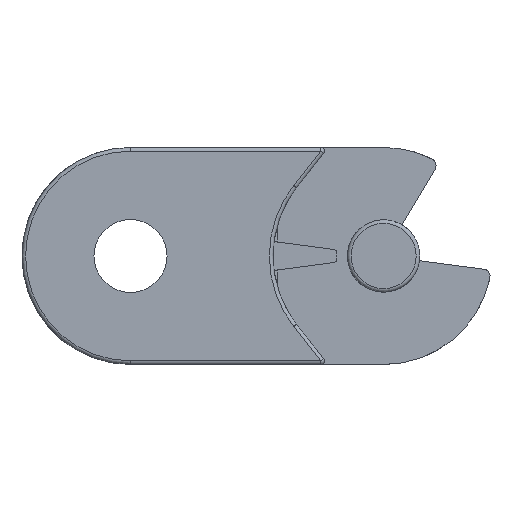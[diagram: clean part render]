
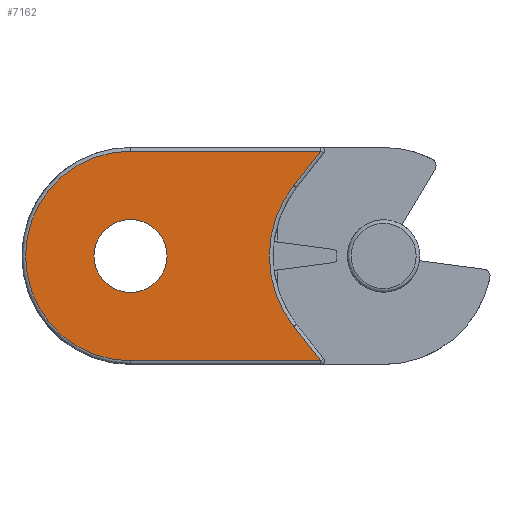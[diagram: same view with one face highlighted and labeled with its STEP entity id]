
A CAD part, left-side view. The second image highlights one B-rep face of the part: STEP entity #7162.
In plain terms, the highlighted planar face has unit normal (-1, 0, 0) as drawn and (0, 0, -1) by its records, which use the part's own axes.
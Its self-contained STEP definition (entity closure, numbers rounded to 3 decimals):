
#3337=CARTESIAN_POINT('',(-12.45,0.,-47.));
#3338=VERTEX_POINT('',#3337);
#3339=CARTESIAN_POINT('',(-17.5,0.,-47.));
#3340=DIRECTION('',(0.0,0.0,-1.0));
#3341=DIRECTION('',(-1.0,0.0,0.0));
#3342=AXIS2_PLACEMENT_3D('',#3339,#3340,#3341);
#3343=CIRCLE('',#3342,5.05);
#3344=EDGE_CURVE('',#3338,#3338,#3343,.T.);
#3783=CARTESIAN_POINT('',(8.793,14.5,-47.));
#3784=VERTEX_POINT('',#3783);
#3808=CARTESIAN_POINT('',(8.793,-14.5,-47.));
#3809=VERTEX_POINT('',#3808);
#3834=CARTESIAN_POINT('',(5.068,9.751,-47.));
#3835=VERTEX_POINT('',#3834);
#3843=CARTESIAN_POINT('',(8.793,14.5,-47.));
#3844=DIRECTION('',(-0.617,-0.787,0.0));
#3845=VECTOR('',#3844,6.035);
#3846=LINE('',#3843,#3845);
#3847=EDGE_CURVE('',#3784,#3835,#3846,.T.);
#3881=CARTESIAN_POINT('',(5.068,-9.751,-47.));
#3882=VERTEX_POINT('',#3881);
#3890=CARTESIAN_POINT('',(17.5,0.,-47.));
#3891=DIRECTION('',(0.0,0.0,1.0));
#3892=DIRECTION('',(-1.,0.,0.0));
#3893=AXIS2_PLACEMENT_3D('',#3890,#3891,#3892);
#3894=CIRCLE('',#3893,15.8);
#3895=EDGE_CURVE('',#3835,#3882,#3894,.T.);
#3908=CARTESIAN_POINT('',(5.068,-9.751,-47.));
#3909=DIRECTION('',(0.617,-0.787,0.0));
#3910=VECTOR('',#3909,6.035);
#3911=LINE('',#3908,#3910);
#3912=EDGE_CURVE('',#3882,#3809,#3911,.T.);
#3930=CARTESIAN_POINT('',(-17.5,14.5,-47.));
#3931=VERTEX_POINT('',#3930);
#3948=CARTESIAN_POINT('',(-17.5,14.5,-47.));
#3949=DIRECTION('',(1.0,0.0,0.0));
#3950=VECTOR('',#3949,26.293);
#3951=LINE('',#3948,#3950);
#3952=EDGE_CURVE('',#3931,#3784,#3951,.T.);
#3962=CARTESIAN_POINT('',(-17.5,-14.5,-47.));
#3963=VERTEX_POINT('',#3962);
#3964=CARTESIAN_POINT('',(-17.5,0.,-47.));
#3965=DIRECTION('',(0.0,0.0,-1.0));
#3966=DIRECTION('',(-1.0,0.0,0.0));
#3967=AXIS2_PLACEMENT_3D('',#3964,#3965,#3966);
#3968=CIRCLE('',#3967,14.5);
#3969=EDGE_CURVE('',#3963,#3931,#3968,.T.);
#4004=CARTESIAN_POINT('',(8.793,-14.5,-47.));
#4005=DIRECTION('',(-1.0,0.0,0.0));
#4006=VECTOR('',#4005,26.293);
#4007=LINE('',#4004,#4006);
#4008=EDGE_CURVE('',#3809,#3963,#4007,.T.);
#7146=CARTESIAN_POINT('',(-11.604,0.,-47.));
#7147=DIRECTION('',(0.0,0.0,-1.0));
#7148=DIRECTION('',(-1.0,0.0,0.0));
#7149=AXIS2_PLACEMENT_3D('',#7146,#7147,#7148);
#7150=PLANE('',#7149);
#7151=ORIENTED_EDGE('',*,*,#4008,.T.);
#7152=ORIENTED_EDGE('',*,*,#3969,.T.);
#7153=ORIENTED_EDGE('',*,*,#3952,.T.);
#7154=ORIENTED_EDGE('',*,*,#3847,.T.);
#7155=ORIENTED_EDGE('',*,*,#3895,.T.);
#7156=ORIENTED_EDGE('',*,*,#3912,.T.);
#7157=EDGE_LOOP('',(#7151,#7152,#7153,#7154,#7155,#7156));
#7158=FACE_OUTER_BOUND('',#7157,.T.);
#7159=ORIENTED_EDGE('',*,*,#3344,.F.);
#7160=EDGE_LOOP('',(#7159));
#7161=FACE_BOUND('',#7160,.T.);
#7162=ADVANCED_FACE('',(#7158,#7161),#7150,.T.);
